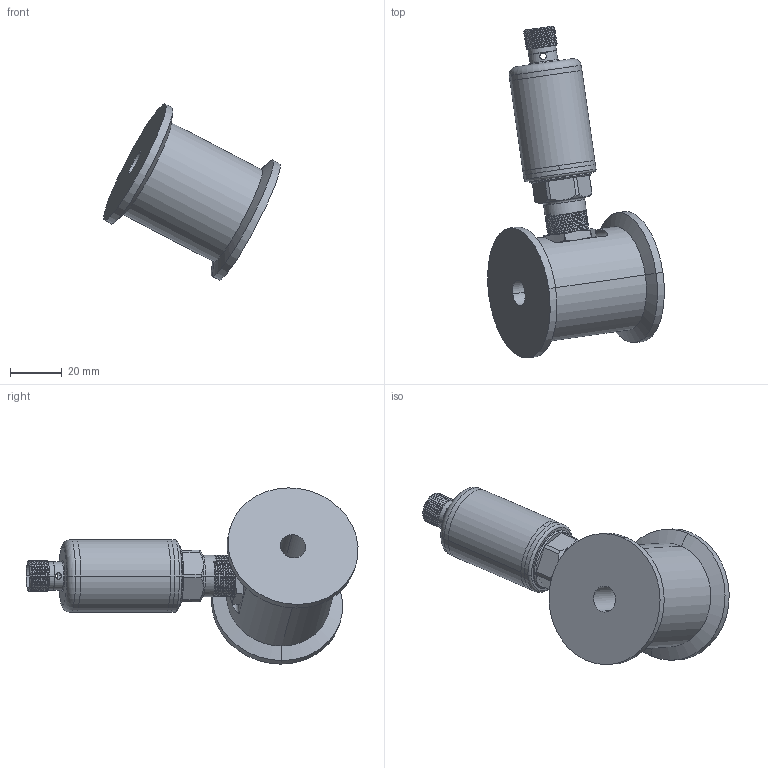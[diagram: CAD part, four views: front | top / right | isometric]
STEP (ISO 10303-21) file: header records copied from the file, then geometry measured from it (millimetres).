
FILE_DESCRIPTION (( 'STEP AP214' ), '1' );
FILE_NAME ('BFW1K10-J.STEP', '2025-11-05T01:17:28', ( '' ), ( '' ), 'SwSTEP 2.0', 'SolidWorks 2023', '' );
FILE_SCHEMA (( 'AUTOMOTIVE_DESIGN' ));
Length unit declared in the file: millimetre
Products named in the file (8): 探头; BFW1K10-J; M16螺母; DN4卡盘主体; 壳体; 垫片; 压力变送器; 连接管
Assembly tree (8 placements, depth 3):
  BFW1K10-J
    压力变送器
      壳体
      垫片
      连接管
      探头
    M16螺母  x2
    DN4卡盘主体
Bounding box: 68 x 127.78 x 67.82 mm (x, y, z)
Volume: 75399.3 mm3; surface area: 31838 mm2
Topology: 7 solids, 7 shells, 275 faces, 699 edges, 450 vertices
Faces by surface type: cylinder 136, cone 69, plane 54, torus 8, bspline 8
Entity records: 11610 total; most frequent: CARTESIAN_POINT 5932, ORIENTED_EDGE 1212, DIRECTION 1084, EDGE_CURVE 606, AXIS2_PLACEMENT_3D 435, VERTEX_POINT 389, EDGE_LOOP 273, FACE_OUTER_BOUND 241
